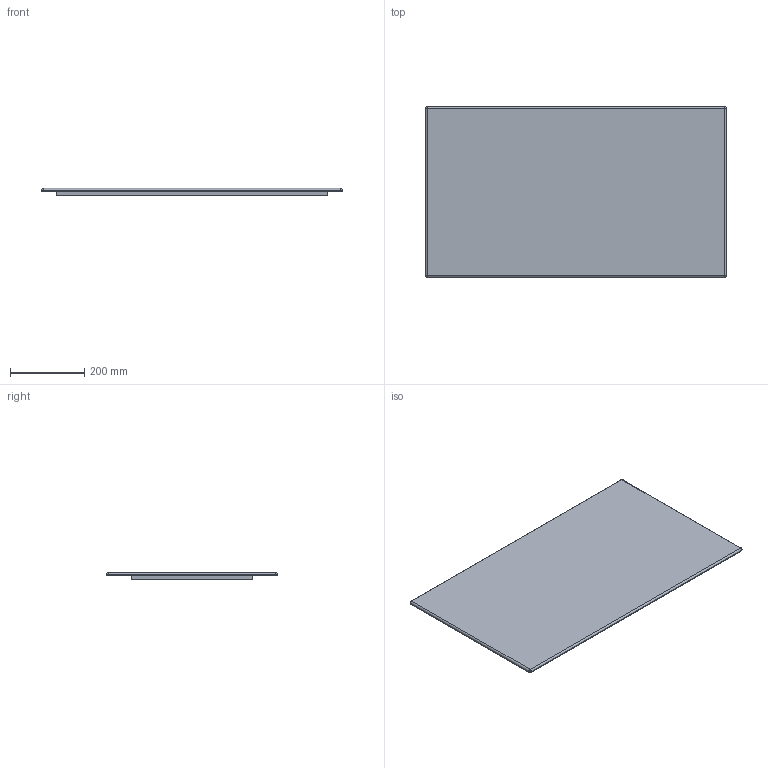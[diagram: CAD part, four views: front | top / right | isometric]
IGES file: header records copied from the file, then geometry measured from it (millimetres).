
Start section: START RECORD GO HERE.
Global section: file name: 3D ART 2057.igs; native system: DASSAULT SYSTEMES CATIA V5 R19 - www.3ds.com; preprocessor: CATIA Version 5 Release 19 SP 5 ; author: Luca; organization: DESKTOP-V7SON24; date: 20191030.175016; units: millimetre
Bounding box: 810 x 460 x 20 mm (x, y, z)
Surface area: 783414.1 mm2 (no closed solid volume)
Topology: 0 solids, 0 shells, 36 faces, 156 edges, 152 vertices
Faces by surface type: revolution 20, plane 16
